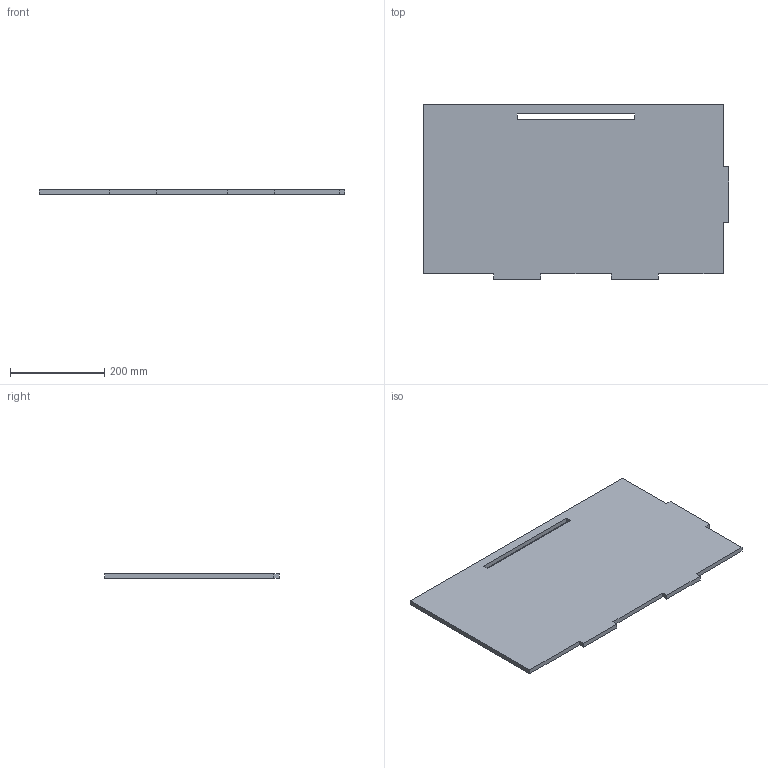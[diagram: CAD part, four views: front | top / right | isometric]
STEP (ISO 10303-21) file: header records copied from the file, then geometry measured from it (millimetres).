
FILE_DESCRIPTION (( 'STEP AP214' ), '1' );
FILE_NAME ('m down.STEP', '2024-10-17T16:15:52', ( '' ), ( '' ), 'SwSTEP 2.0', 'SolidWorks 2020', '' );
FILE_SCHEMA (( 'AUTOMOTIVE_DESIGN' ));
Length unit declared in the file: millimetre
Products named in the file (1): m down
Bounding box: 650 x 371.79 x 10 mm (x, y, z)
Volume: 2303700.8 mm3; surface area: 486656 mm2
Topology: 1 solids, 1 shells, 22 faces, 60 edges, 40 vertices
Faces by surface type: plane 22
Entity records: 722 total; most frequent: CARTESIAN_POINT 123, ORIENTED_EDGE 120, DIRECTION 106, VECTOR 60, EDGE_CURVE 60, LINE 60, VERTEX_POINT 40, EDGE_LOOP 24
